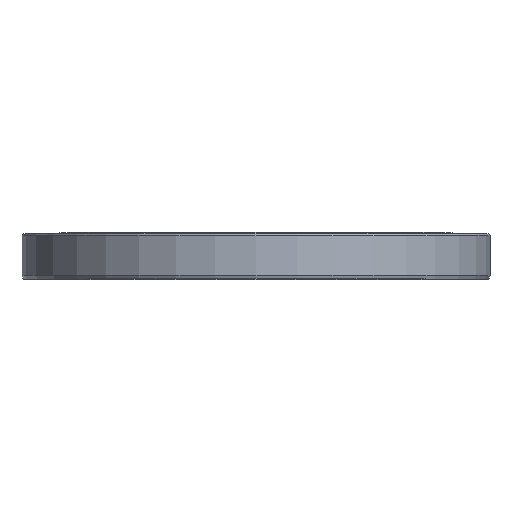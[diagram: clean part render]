
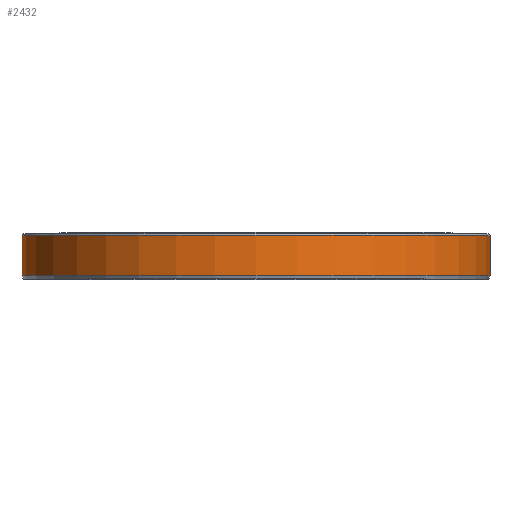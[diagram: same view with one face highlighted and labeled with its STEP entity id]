
A CAD part, top view. The second image highlights one B-rep face of the part: STEP entity #2432.
In plain terms, the highlighted cylindrical face has radius 127.5 mm (diameter 255 mm), a partial arc.
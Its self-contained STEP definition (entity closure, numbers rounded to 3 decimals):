
#657=CARTESIAN_POINT('',(0.,2.,0.));
#658=DIRECTION('',(0.,1.,0.));
#659=DIRECTION('',(-1.,0.,0.));
#660=AXIS2_PLACEMENT_3D('',#657,#658,#659);
#662=CARTESIAN_POINT('',(0.,23.8,0.));
#663=DIRECTION('',(0.,-1.,0.));
#664=DIRECTION('',(1.,0.,0.));
#665=AXIS2_PLACEMENT_3D('',#662,#663,#664);
#667=DIRECTION('',(0.,-1.,0.));
#668=VECTOR('',#667,21.8);
#669=CARTESIAN_POINT('',(-127.5,23.8,0.));
#670=LINE('',#669,#668);
#671=DIRECTION('',(0.,1.,0.));
#672=VECTOR('',#671,21.8);
#673=CARTESIAN_POINT('',(127.5,2.,0.));
#674=LINE('',#673,#672);
#1571=CARTESIAN_POINT('',(-127.5,2.,0.));
#1573=VERTEX_POINT('',#1571);
#1601=CARTESIAN_POINT('',(127.5,2.,0.));
#1603=VERTEX_POINT('',#1601);
#1777=CARTESIAN_POINT('',(-127.5,23.8,0.));
#1778=CARTESIAN_POINT('',(127.5,23.8,0.));
#1779=VERTEX_POINT('',#1777);
#1780=VERTEX_POINT('',#1778);
#2418=CARTESIAN_POINT('',(0.,0.,0.));
#2419=DIRECTION('',(0.,1.,0.));
#2420=DIRECTION('',(1.,0.,0.));
#2421=AXIS2_PLACEMENT_3D('',#2418,#2419,#2420);
#2422=CYLINDRICAL_SURFACE('',#2421,127.5);
#2424=ORIENTED_EDGE('',*,*,#2423,.F.);
#2425=ORIENTED_EDGE('',*,*,#2404,.F.);
#2427=ORIENTED_EDGE('',*,*,#2426,.F.);
#2429=ORIENTED_EDGE('',*,*,#2428,.F.);
#2430=EDGE_LOOP('',(#2424,#2425,#2427,#2429));
#2431=FACE_OUTER_BOUND('',#2430,.F.);
#661=CIRCLE('',#660,127.5);
#666=CIRCLE('',#665,127.5);
#2404=EDGE_CURVE('',#1573,#1603,#661,.T.);
#2423=EDGE_CURVE('',#1603,#1780,#674,.T.);
#2426=EDGE_CURVE('',#1779,#1573,#670,.T.);
#2428=EDGE_CURVE('',#1780,#1779,#666,.T.);
#2432=ADVANCED_FACE('',(#2431),#2422,.T.);
